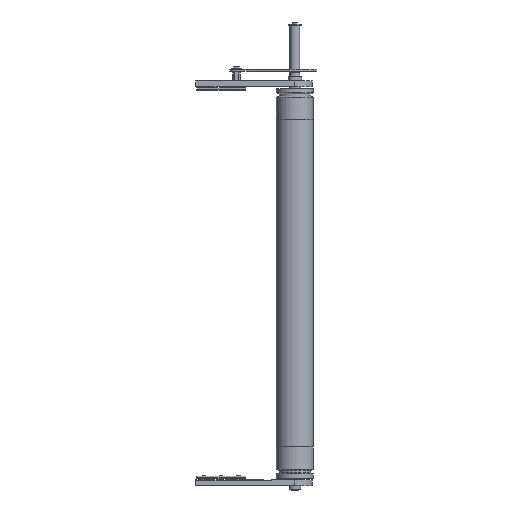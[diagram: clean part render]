
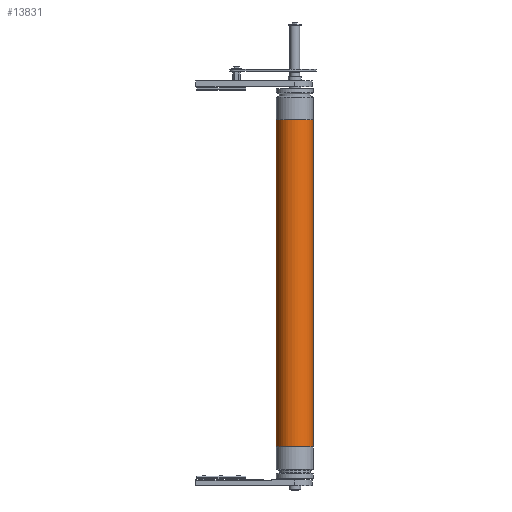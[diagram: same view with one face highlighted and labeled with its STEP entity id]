
A CAD part, front view. The second image highlights one B-rep face of the part: STEP entity #13831.
In plain terms, the highlighted cylindrical face has radius 48 mm (diameter 96 mm), a partial arc.
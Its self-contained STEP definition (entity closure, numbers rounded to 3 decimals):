
#306 = DIRECTION ( 'NONE',  ( -1., 0., 0. ) ) ;
#457 = VECTOR ( 'NONE', #16574, 1000. ) ;
#1233 = VERTEX_POINT ( 'NONE', #19414 ) ;
#1281 = DIRECTION ( 'NONE',  ( 1., 0., 0. ) ) ;
#2016 = CARTESIAN_POINT ( 'NONE',  ( 421.5, 0., 0. ) ) ;
#2212 = EDGE_CURVE ( 'NONE', #21082, #5627, #20346, .T. ) ;
#3506 = CARTESIAN_POINT ( 'NONE',  ( 421.5, 0., 48. ) ) ;
#3643 = CIRCLE ( 'NONE', #7906, 48. ) ;
#4252 = EDGE_CURVE ( 'NONE', #1233, #10659, #12295, .T. ) ;
#4553 = DIRECTION ( 'NONE',  ( 0., 0., -1. ) ) ;
#5627 = VERTEX_POINT ( 'NONE', #8511 ) ;
#5920 = ORIENTED_EDGE ( 'NONE', *, *, #7558, .T. ) ;
#6195 = DIRECTION ( 'NONE',  ( 0., 0., 1. ) ) ;
#6432 = CIRCLE ( 'NONE', #8890, 48. ) ;
#6861 = DIRECTION ( 'NONE',  ( 0., 0., -1. ) ) ;
#7168 = VECTOR ( 'NONE', #306, 1000. ) ;
#7174 = EDGE_CURVE ( 'NONE', #21082, #1233, #3643, .T. ) ;
#7350 = AXIS2_PLACEMENT_3D ( 'NONE', #19507, #21192, #6195 ) ;
#7558 = EDGE_CURVE ( 'NONE', #5627, #10659, #6432, .T. ) ;
#7906 = AXIS2_PLACEMENT_3D ( 'NONE', #2016, #11703, #6861 ) ;
#8461 = ORIENTED_EDGE ( 'NONE', *, *, #7174, .F. ) ;
#8511 = CARTESIAN_POINT ( 'NONE',  ( -421.5, 0., 48. ) ) ;
#8890 = AXIS2_PLACEMENT_3D ( 'NONE', #11103, #1281, #4553 ) ;
#10532 = EDGE_LOOP ( 'NONE', ( #11740, #8461, #15664, #5920 ) ) ;
#10659 = VERTEX_POINT ( 'NONE', #18299 ) ;
#10669 = CARTESIAN_POINT ( 'NONE',  ( 421.5, 0., 48. ) ) ;
#11103 = CARTESIAN_POINT ( 'NONE',  ( -421.5, 0., 0. ) ) ;
#11703 = DIRECTION ( 'NONE',  ( 1., 0., 0. ) ) ;
#11740 = ORIENTED_EDGE ( 'NONE', *, *, #4252, .F. ) ;
#12094 = FACE_OUTER_BOUND ( 'NONE', #10532, .T. ) ;
#12295 = LINE ( 'NONE', #18144, #457 ) ;
#13831 = ADVANCED_FACE ( 'NONE', ( #12094 ), #14738, .T. ) ;
#14738 = CYLINDRICAL_SURFACE ( 'NONE', #7350, 48. ) ;
#15664 = ORIENTED_EDGE ( 'NONE', *, *, #2212, .T. ) ;
#16574 = DIRECTION ( 'NONE',  ( -1., 0., 0. ) ) ;
#18144 = CARTESIAN_POINT ( 'NONE',  ( 421.5, 0., -48. ) ) ;
#18299 = CARTESIAN_POINT ( 'NONE',  ( -421.5, 0., -48. ) ) ;
#19414 = CARTESIAN_POINT ( 'NONE',  ( 421.5, 0., -48. ) ) ;
#19507 = CARTESIAN_POINT ( 'NONE',  ( 421.5, 0., 0. ) ) ;
#20346 = LINE ( 'NONE', #3506, #7168 ) ;
#21082 = VERTEX_POINT ( 'NONE', #10669 ) ;
#21192 = DIRECTION ( 'NONE',  ( -1., 0., 0. ) ) ;
